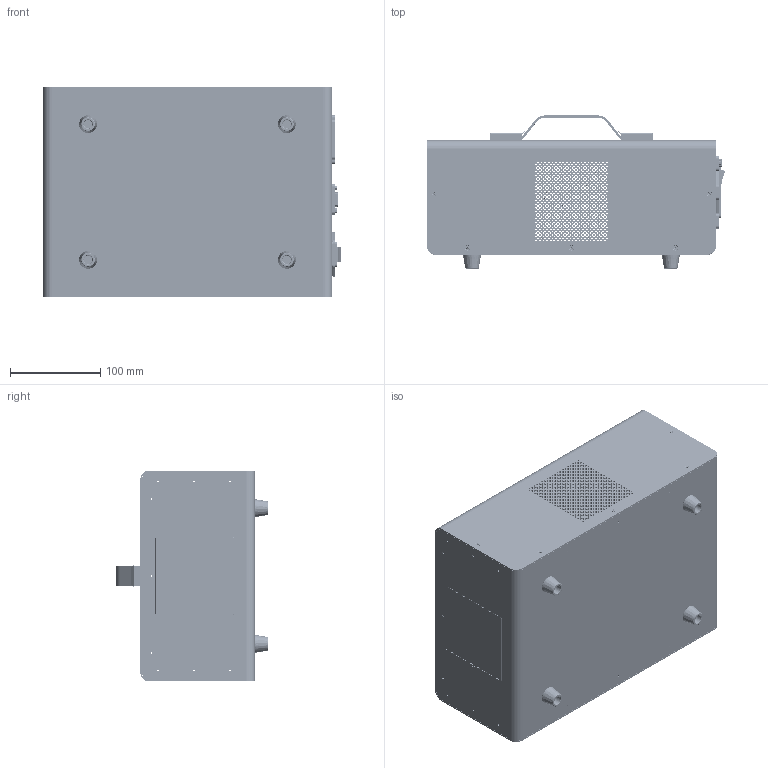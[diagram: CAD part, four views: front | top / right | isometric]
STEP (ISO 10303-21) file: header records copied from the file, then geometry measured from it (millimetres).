
FILE_DESCRIPTION (( 'STEP AP203' ), '1' );
FILE_NAME ('HTC-2系列温控仪（对外不带板卡）.STEP', '2026-09-01T08:19:52', ( 'Admin-' ), ( 'Microsoft' ), 'SwSTEP 2.0', 'SolidWorks 2024', '' );
FILE_SCHEMA (( 'CONFIG_CONTROL_DESIGN' ));
Length unit declared in the file: millimetre
Products named in the file (28): 橡胶支腿; 把手; 焊件B; QK-ASM.stp; SOLID1-9511.stp.STEP; 4P端子; RD106_DRAW_SCR屏幕3D模型_v1.0.0.stp; SOLID1-9511-1.stp.STEP; 2P端子; SOLID1-9496.stp.STEP; SOLID1-9511-3.stp.STEP; 盒体总焊接; 焊件C; DB9母头(2); HTC-2系列温控仪（对外不带板卡）; 焊件A; GJ.stp; SOLID1-9501.stp.STEP; SOLID1-9511-2-1.stp.STEP; noise-filter_power-inlet.stp.STEP; 盖A; SOLID1-9506.stp.STEP; 滤波品字插座.STEP; 6P端子; 屏幕固定件; 盖B; GB╱T 819.1-2016[十字槽沉头螺钉 4.8级M3×8]_M3×8; 提手固定件
Assembly tree (55 placements, depth 4):
  HTC-2系列温控仪（对外不带板卡）
    盒体总焊接
      盖A
      焊件A  x2
      焊件B  x4
      焊件C  x2
      屏幕固定件  x2
      RD106_DRAW_SCR屏幕3D模型_v1.0.0.stp
        QK-ASM.stp
        GJ.stp
    盖B
    滤波品字插座.STEP
      noise-filter_power-inlet.stp.STEP
        SOLID1-9496.stp.STEP
        SOLID1-9501.stp.STEP
        SOLID1-9506.stp.STEP
        SOLID1-9511.stp.STEP
        SOLID1-9511-1.stp.STEP
        SOLID1-9511-2-1.stp.STEP  x2
        SOLID1-9511-3.stp.STEP
    橡胶支腿  x4
    DB9母头(2)
    GB╱T 819.1-2016[十字槽沉头螺钉 4.8级M3×8]_M3×8  x16
    2P端子  x2
    4P端子  x2
    6P端子
    提手固定件  x2
    把手
Bounding box: 330.05 x 169.2 x 233.4 mm (x, y, z)
Volume: 558874.3 mm3; surface area: 760334.1 mm2
Topology: 60 solids, 60 shells, 8999 faces, 24927 edges, 16040 vertices
Faces by surface type: cylinder 4975, plane 3366, bspline 248, torus 189, cone 180, sphere 41
Entity records: 276071 total; most frequent: CARTESIAN_POINT 56143, DIRECTION 45553, ORIENTED_EDGE 44176, EDGE_CURVE 22088, AXIS2_PLACEMENT_3D 16834, VERTEX_POINT 14407, VECTOR 11885, LINE 11885
